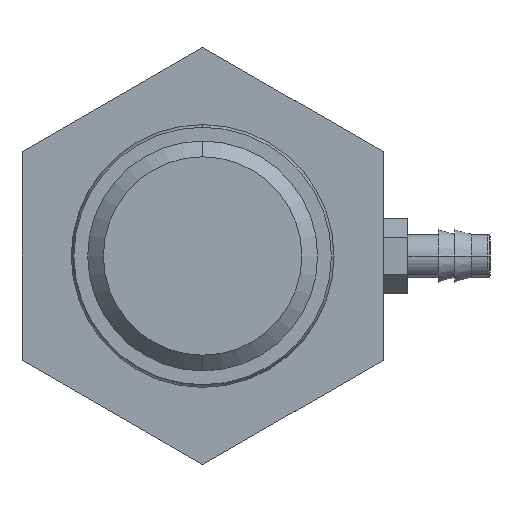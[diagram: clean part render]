
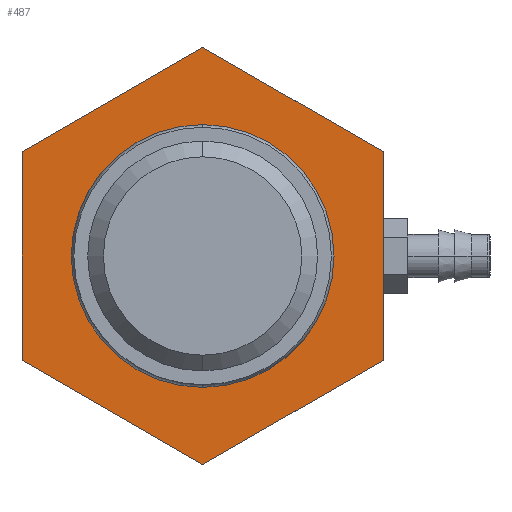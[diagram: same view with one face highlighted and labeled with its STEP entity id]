
A CAD part, left-side view. The second image highlights one B-rep face of the part: STEP entity #487.
In plain terms, the highlighted planar face has unit normal (-1, 0, 0).
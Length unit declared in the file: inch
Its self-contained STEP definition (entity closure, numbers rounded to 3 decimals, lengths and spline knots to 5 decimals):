
#200=DIRECTION('',(0.,0.866,-0.5));
#201=VECTOR('',#200,0.79386);
#202=CARTESIAN_POINT('',(-2.75,0.,0.79386));
#203=LINE('',#202,#201);
#204=DIRECTION('',(0.,0.866,0.5));
#205=VECTOR('',#204,0.79386);
#206=CARTESIAN_POINT('',(-2.75,-0.6875,0.39693));
#207=LINE('',#206,#205);
#208=DIRECTION('',(0.,0.,1.));
#209=VECTOR('',#208,0.79386);
#210=CARTESIAN_POINT('',(-2.75,-0.6875,-0.39693));
#211=LINE('',#210,#209);
#212=DIRECTION('',(0.,-0.866,0.5));
#213=VECTOR('',#212,0.79386);
#214=CARTESIAN_POINT('',(-2.75,0.,-0.79386));
#215=LINE('',#214,#213);
#216=DIRECTION('',(0.,-0.866,-0.5));
#217=VECTOR('',#216,0.79386);
#218=CARTESIAN_POINT('',(-2.75,0.6875,-0.39693));
#219=LINE('',#218,#217);
#220=DIRECTION('',(0.,0.,-1.));
#221=VECTOR('',#220,0.79386);
#222=CARTESIAN_POINT('',(-2.75,0.6875,0.39693));
#223=LINE('',#222,#221);
#224=CARTESIAN_POINT('',(-2.75,0.,0.));
#225=DIRECTION('',(1.,0.,0.));
#226=DIRECTION('',(0.,0.,1.));
#227=AXIS2_PLACEMENT_3D('',#224,#225,#226);
#229=CARTESIAN_POINT('',(-2.75,0.,0.));
#230=DIRECTION('',(1.,0.,0.));
#231=DIRECTION('',(0.,0.,-1.));
#232=AXIS2_PLACEMENT_3D('',#229,#230,#231);
#402=CARTESIAN_POINT('',(-2.75,0.,0.79386));
#403=CARTESIAN_POINT('',(-2.75,0.6875,0.39693));
#404=VERTEX_POINT('',#402);
#405=VERTEX_POINT('',#403);
#410=CARTESIAN_POINT('',(-2.75,0.6875,-0.39693));
#411=VERTEX_POINT('',#410);
#412=CARTESIAN_POINT('',(-2.75,-0.6875,0.39693));
#413=VERTEX_POINT('',#412);
#416=CARTESIAN_POINT('',(-2.75,0.,-0.79386));
#417=VERTEX_POINT('',#416);
#418=CARTESIAN_POINT('',(-2.75,-0.6875,-0.39693));
#419=VERTEX_POINT('',#418);
#426=CARTESIAN_POINT('',(-2.75,0.,-0.413));
#428=VERTEX_POINT('',#426);
#430=CARTESIAN_POINT('',(-2.75,0.,0.413));
#432=VERTEX_POINT('',#430);
#462=CARTESIAN_POINT('',(-2.75,0.,0.));
#463=DIRECTION('',(-1.,0.,0.));
#464=DIRECTION('',(0.,0.,1.));
#465=AXIS2_PLACEMENT_3D('',#462,#463,#464);
#466=PLANE('',#465);
#468=ORIENTED_EDGE('',*,*,#467,.F.);
#470=ORIENTED_EDGE('',*,*,#469,.F.);
#472=ORIENTED_EDGE('',*,*,#471,.F.);
#474=ORIENTED_EDGE('',*,*,#473,.F.);
#476=ORIENTED_EDGE('',*,*,#475,.F.);
#478=ORIENTED_EDGE('',*,*,#477,.F.);
#479=EDGE_LOOP('',(#468,#470,#472,#474,#476,#478));
#480=FACE_OUTER_BOUND('',#479,.F.);
#482=ORIENTED_EDGE('',*,*,#481,.F.);
#484=ORIENTED_EDGE('',*,*,#483,.F.);
#485=EDGE_LOOP('',(#482,#484));
#486=FACE_BOUND('',#485,.F.);
#228=CIRCLE('',#227,0.413);
#233=CIRCLE('',#232,0.413);
#467=EDGE_CURVE('',#404,#405,#203,.T.);
#469=EDGE_CURVE('',#413,#404,#207,.T.);
#471=EDGE_CURVE('',#419,#413,#211,.T.);
#473=EDGE_CURVE('',#417,#419,#215,.T.);
#475=EDGE_CURVE('',#411,#417,#219,.T.);
#477=EDGE_CURVE('',#405,#411,#223,.T.);
#481=EDGE_CURVE('',#432,#428,#228,.T.);
#483=EDGE_CURVE('',#428,#432,#233,.T.);
#487=ADVANCED_FACE('',(#480,#486),#466,.T.);
